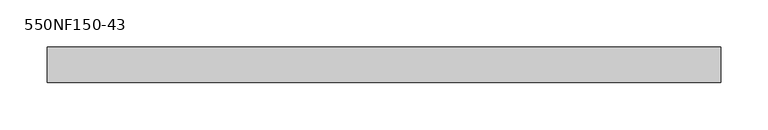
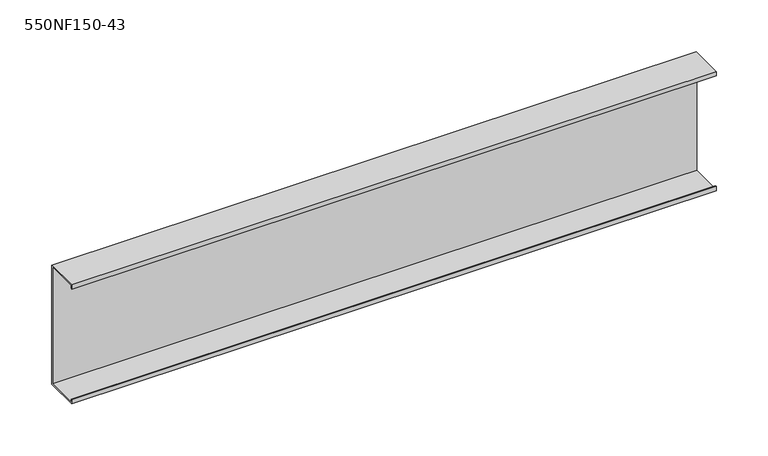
"""IFC4 building model written with IfcOpenShell, lengths in millimetres: beam geometry, BIMSF-SSMA-S : 550NF150-43."""

from ifc_helpers import new_model, si_unit, frame, origin, place, context, project, spatial, polyline, outline, extrude, source, transform, mapped, element, save


def beam_550nf150_43_dee8239c(model_context):
    return source(origin(), model_context, "Body", "SweptSolid", [
        extrude(outline(polyline([(19.05, 69.85), (19.05, -69.85), (-19.05, -69.85), (-19.05, -65.0748), (-17.9003158, -65.0748), (-17.9003158, -68.7003158), (17.9003158, -68.7003158), (17.9003158, 68.7003158), (-17.9003158, 68.7003158), (-17.9003158, 65.0748), (-19.05, 65.0748), (-19.05, 69.85), (19.05, 69.85)])), frame((-357.98125, 0.0, 0.0), z_axis=(1.0, 0.0, 0.0), x_axis=(0.0, 1.0, 0.0)), (0.0, 0.0, 1.0), 715.9625),
    ])


if __name__ == "__main__":
    model = new_model("IFC4")
    model_context = context("Model", 3, world=origin())
    ifc_project = project(units=[si_unit("LENGTHUNIT", "METRE", prefix="MILLI")], contexts=[model_context])
    site = spatial("IfcSite", under=ifc_project)
    building = spatial("IfcBuilding", under=site)
    placement = place(None, origin())
    beam_550nf150_43_shape = beam_550nf150_43_dee8239c(model_context)
    element("IfcBeam", 1, ObjectType="BIMSF-SSMA-S : 550NF150-43", at=placement, inside=building, context=model_context, shape_type="MappedRepresentation", body=[
        mapped(beam_550nf150_43_shape, transform((0.0, 0.0, 0.0), x_axis=(1.0, 0.0, 0.0), y_axis=(0.0, 1.0, 0.0), z_axis=(0.0, 0.0, 1.0))),
    ])
    save(model, "model.ifc")
